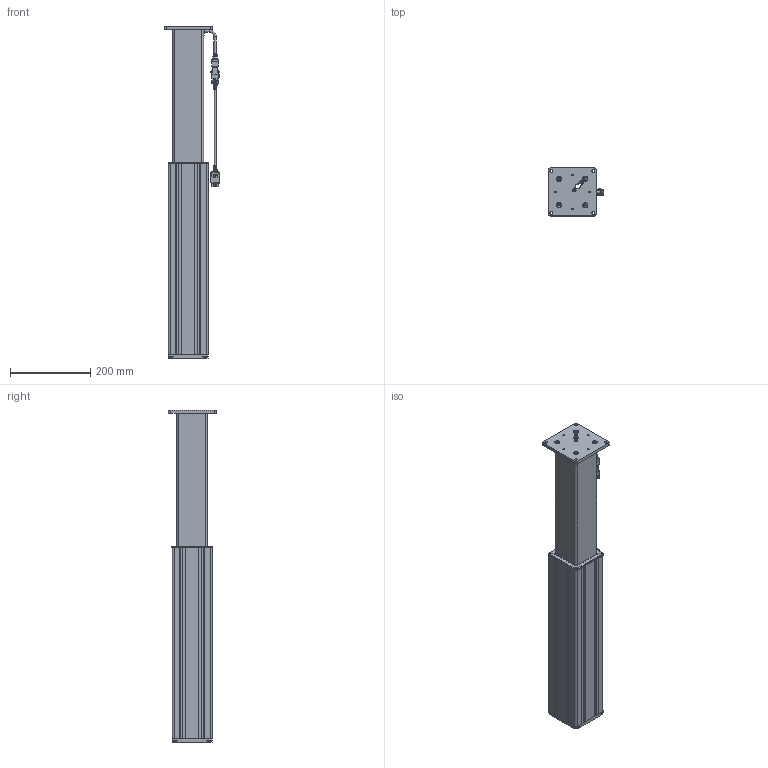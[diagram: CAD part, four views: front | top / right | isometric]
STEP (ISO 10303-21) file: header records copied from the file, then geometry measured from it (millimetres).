
FILE_DESCRIPTION(/* description */ ('Unknown'),/* implementation_level */ '2;1');
FILE_NAME(/* name */ '912.00003_01_ausgefahren',/* time_stamp */ '2024-04-08T10:48:08+02:00',/* author */ ('Unknown'),/* organization */ ('Unknown'),/* preprocessor_version */ 'ST-DEVELOPER v18.104',/* originating_system */ 'Solid Edge',/* authorisation */ 'Unknown');
FILE_SCHEMA (('AUTOMOTIVE_DESIGN {1 0 10303 214 3 1 1}'));
Length unit declared in the file: millimetre
Products named in the file (13): 912.00003; 126.00196; 119.00584; 128.00077; 119.00583; 126.00197; 124.00201_oa_0; 124.00151; 142.00303; 142.00241; 142.00154; 142.00039; Kabel Motor Sx
Assembly tree (23 placements, depth 2):
  912.00003
    126.00196
    119.00584  x4
    128.00077
    119.00583
    126.00197
    124.00201_oa_0
    124.00151
    142.00303  x4
    142.00241  x2
    142.00154  x4
    142.00039  x2
    Kabel Motor Sx
Bounding box: 139.17 x 120 x 830 mm (x, y, z)
Volume: 1823233.2 mm3; surface area: 1147160.5 mm2
Topology: 22 solids, 22 shells, 1787 faces, 4699 edges, 3081 vertices
Faces by surface type: plane 1094, cylinder 479, torus 109, bspline 72, cone 27, sphere 6
Full cylindrical faces by diameter (mm): 1.5 x6, 1.82 x6, 2 x4, 2.7 x6, 4 x2, 4.917 x4, 5 x3, 5.2 x8, 5.5 x2, 6 x11, 6.2 x4, 6.5 x4, 6.6 x4, 6.647 x4, 7 x2, 8.376 x1, 10 x2, 12 x4, 21 x1
Entity records: 56537 total; most frequent: CARTESIAN_POINT 11415, ORIENTED_EDGE 7522, DIRECTION 7477, EDGE_CURVE 3761, AXIS2_PLACEMENT_3D 2544, VERTEX_POINT 2522, LINE 2389, VECTOR 2389
